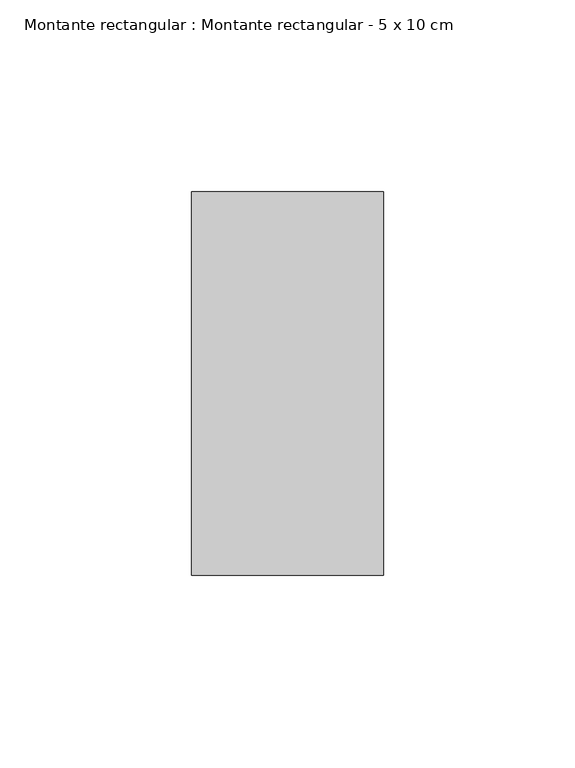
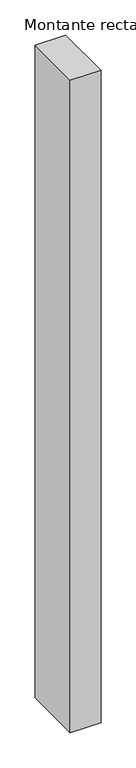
"""IFC4 building model written with IfcOpenShell, lengths in millimetres: member geometry, Montante rectangular : Montante rectangular - 5 x 10 cm."""

from ifc_helpers import new_model, si_unit, frame, origin, place, context, project, spatial, polyline, outline, extrude, source, transform, mapped, element, save


def montante_rectangular_montante_rectangular_5_x_10_cm_6f9c7a16(model_context):
    return source(origin(), model_context, "Body", "SweptSolid", [
        extrude(outline(polyline([(0.0, 50.0), (0.0, -50.0), (-50.0, -50.0), (-50.0, 50.0), (0.0, 50.0)])), frame((0.0, 0.0, -1130.0), z_axis=(0.0, 0.0, 1.0), x_axis=(1.0, 0.0, 0.0)), (0.0, 0.0, 1.0), 1130.0),
    ])


if __name__ == "__main__":
    model = new_model("IFC4")
    model_context = context("Model", 3, world=origin())
    ifc_project = project(units=[si_unit("LENGTHUNIT", "METRE", prefix="MILLI")], contexts=[model_context])
    site = spatial("IfcSite", under=ifc_project)
    building = spatial("IfcBuilding", under=site)
    placement = place(None, origin())
    montante_rectangular_montante_rectangular_5_x_10_cm_shape = montante_rectangular_montante_rectangular_5_x_10_cm_6f9c7a16(model_context)
    element("IfcMember", 1, ObjectType="Montante rectangular : Montante rectangular - 5 x 10 cm", at=placement, inside=building, context=model_context, shape_type="MappedRepresentation", body=[
        mapped(montante_rectangular_montante_rectangular_5_x_10_cm_shape, transform((0.0, 0.0, 0.0), x_axis=(1.0, 0.0, 0.0), y_axis=(0.0, 1.0, 0.0), z_axis=(0.0, 0.0, 1.0))),
    ])
    save(model, "model.ifc")
